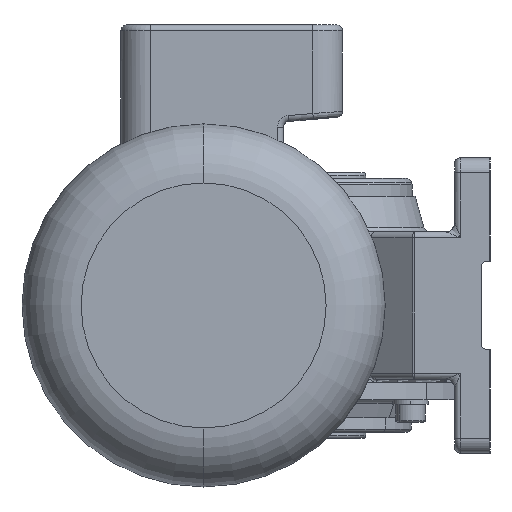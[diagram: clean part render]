
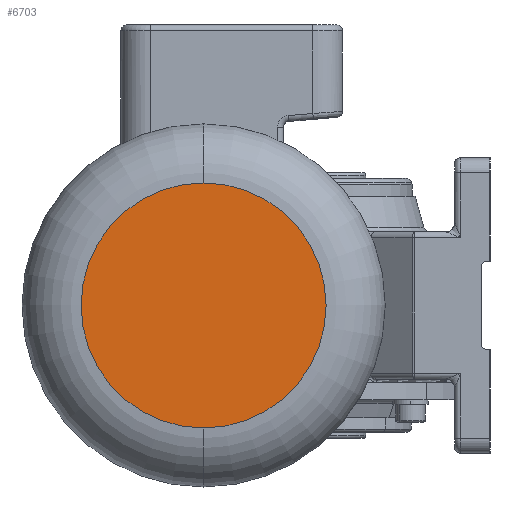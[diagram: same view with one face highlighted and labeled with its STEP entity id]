
A CAD part, left-side view. The second image highlights one B-rep face of the part: STEP entity #6703.
In plain terms, the highlighted planar face has unit normal (-1, 0, 0).
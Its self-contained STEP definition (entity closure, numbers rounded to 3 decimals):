
#667 = FACE_OUTER_BOUND ( 'NONE', #20945, .T. ) ;
#1021 = DIRECTION ( 'NONE',  ( 0., 0., 1. ) ) ;
#2337 = PLANE ( 'NONE',  #17786 ) ;
#2400 = DIRECTION ( 'NONE',  ( 0., 0., 1. ) ) ;
#4214 = DIRECTION ( 'NONE',  ( 0., 0., 1. ) ) ;
#6423 = DIRECTION ( 'NONE',  ( -1., 0., 0. ) ) ;
#6703 = ADVANCED_FACE ( 'NONE', ( #667 ), #2337, .F. ) ;
#6913 = EDGE_CURVE ( 'NONE', #8635, #13230, #14823, .T. ) ;
#8635 = VERTEX_POINT ( 'NONE', #15223 ) ;
#9326 = CARTESIAN_POINT ( 'NONE',  ( -409.993, 64.441, 0. ) ) ;
#9494 = CARTESIAN_POINT ( 'NONE',  ( -409.993, 64.441, 0. ) ) ;
#9902 = ORIENTED_EDGE ( 'NONE', *, *, #22628, .T. ) ;
#12965 = DIRECTION ( 'NONE',  ( -1., 0., 0. ) ) ;
#13178 = AXIS2_PLACEMENT_3D ( 'NONE', #9326, #12965, #2400 ) ;
#13230 = VERTEX_POINT ( 'NONE', #20715 ) ;
#14823 = CIRCLE ( 'NONE', #20793, 41.5 ) ;
#15223 = CARTESIAN_POINT ( 'NONE',  ( -409.993, 64.441, -41.5 ) ) ;
#16143 = ORIENTED_EDGE ( 'NONE', *, *, #6913, .T. ) ;
#16658 = DIRECTION ( 'NONE',  ( 1., 0., 0. ) ) ;
#17786 = AXIS2_PLACEMENT_3D ( 'NONE', #9494, #16658, #4214 ) ;
#19527 = CIRCLE ( 'NONE', #13178, 41.5 ) ;
#20715 = CARTESIAN_POINT ( 'NONE',  ( -409.993, 64.441, 41.5 ) ) ;
#20793 = AXIS2_PLACEMENT_3D ( 'NONE', #20844, #6423, #1021 ) ;
#20844 = CARTESIAN_POINT ( 'NONE',  ( -409.993, 64.441, 0. ) ) ;
#20945 = EDGE_LOOP ( 'NONE', ( #9902, #16143 ) ) ;
#22628 = EDGE_CURVE ( 'NONE', #13230, #8635, #19527, .T. ) ;
